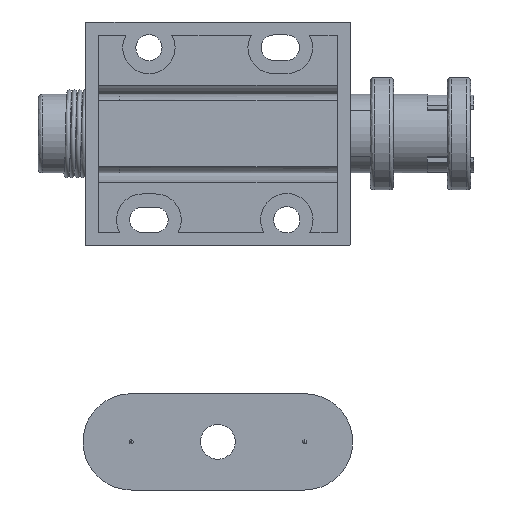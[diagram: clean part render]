
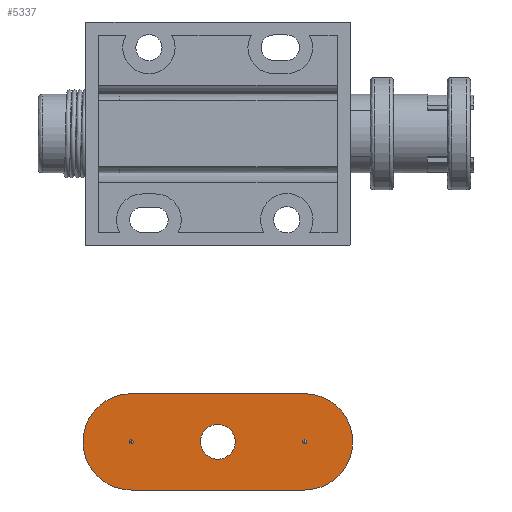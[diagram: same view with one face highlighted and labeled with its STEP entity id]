
A CAD part, front view. The second image highlights one B-rep face of the part: STEP entity #5337.
In plain terms, the highlighted planar face has unit normal (0, -1, 0).
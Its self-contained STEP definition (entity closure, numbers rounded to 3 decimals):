
#32 = EDGE_CURVE ( 'NONE', #4828, #5866, #2025, .T. ) ;
#155 = VECTOR ( 'NONE', #185, 1000. ) ;
#161 = CARTESIAN_POINT ( 'NONE',  ( -11.25, 0., -33.75 ) ) ;
#169 = CARTESIAN_POINT ( 'NONE',  ( 11.25, 0., -40.25 ) ) ;
#185 = DIRECTION ( 'NONE',  ( 1., 0., 0. ) ) ;
#222 = VERTEX_POINT ( 'NONE', #3251 ) ;
#453 = CARTESIAN_POINT ( 'NONE',  ( 0., 0., -37.75 ) ) ;
#512 = EDGE_CURVE ( 'NONE', #4718, #222, #5588, .T. ) ;
#609 = EDGE_CURVE ( 'NONE', #3737, #2587, #4645, .T. ) ;
#654 = EDGE_CURVE ( 'NONE', #2002, #3665, #997, .T. ) ;
#698 = ORIENTED_EDGE ( 'NONE', *, *, #609, .F. ) ;
#850 = AXIS2_PLACEMENT_3D ( 'NONE', #5236, #5227, #5199 ) ;
#894 = CIRCLE ( 'NONE', #4468, 2.25 ) ;
#967 = EDGE_CURVE ( 'NONE', #222, #4828, #2855, .T. ) ;
#997 = CIRCLE ( 'NONE', #4238, 0.25 ) ;
#999 = EDGE_CURVE ( 'NONE', #3665, #2002, #2998, .T. ) ;
#1064 = CIRCLE ( 'NONE', #4383, 0.25 ) ;
#1195 = DIRECTION ( 'NONE',  ( 0., 0., 1. ) ) ;
#1204 = DIRECTION ( 'NONE',  ( 0., -1., 0. ) ) ;
#1211 = CARTESIAN_POINT ( 'NONE',  ( 11.25, 0., -40. ) ) ;
#1344 = CIRCLE ( 'NONE', #4271, 6.25 ) ;
#1357 = VECTOR ( 'NONE', #4248, 1000. ) ;
#1436 = CIRCLE ( 'NONE', #5287, 0.25 ) ;
#1502 = ORIENTED_EDGE ( 'NONE', *, *, #4849, .F. ) ;
#1592 = CARTESIAN_POINT ( 'NONE',  ( 0., 0., -42.25 ) ) ;
#1605 = DIRECTION ( 'NONE',  ( 0., -1., 0. ) ) ;
#1637 = ORIENTED_EDGE ( 'NONE', *, *, #4780, .F. ) ;
#1641 = CARTESIAN_POINT ( 'NONE',  ( -11.25, 0., -40.25 ) ) ;
#1652 = EDGE_LOOP ( 'NONE', ( #1637, #698 ) ) ;
#1672 = CARTESIAN_POINT ( 'NONE',  ( -11.25, 0., -39.75 ) ) ;
#1694 = ORIENTED_EDGE ( 'NONE', *, *, #5016, .F. ) ;
#1723 = FACE_OUTER_BOUND ( 'NONE', #4292, .T. ) ;
#1732 = FACE_BOUND ( 'NONE', #3835, .T. ) ;
#1736 = FACE_BOUND ( 'NONE', #1652, .T. ) ;
#1741 = FACE_BOUND ( 'NONE', #3177, .T. ) ;
#1765 = CARTESIAN_POINT ( 'NONE',  ( -11.25, 0., -40. ) ) ;
#1833 = DIRECTION ( 'NONE',  ( 0., 0., 1. ) ) ;
#1856 = DIRECTION ( 'NONE',  ( 0., 1., 0. ) ) ;
#1904 = PLANE ( 'NONE',  #3880 ) ;
#1996 = CARTESIAN_POINT ( 'NONE',  ( -11.25, 0., -33.75 ) ) ;
#2002 = VERTEX_POINT ( 'NONE', #1672 ) ;
#2025 = LINE ( 'NONE', #4275, #1357 ) ;
#2273 = CARTESIAN_POINT ( 'NONE',  ( -11.25, 0., -40. ) ) ;
#2470 = ORIENTED_EDGE ( 'NONE', *, *, #967, .F. ) ;
#2478 = ORIENTED_EDGE ( 'NONE', *, *, #999, .F. ) ;
#2493 = DIRECTION ( 'NONE',  ( 0., 0., 1. ) ) ;
#2587 = VERTEX_POINT ( 'NONE', #453 ) ;
#2725 = DIRECTION ( 'NONE',  ( 0., -1., 0. ) ) ;
#2855 = CIRCLE ( 'NONE', #4505, 6.25 ) ;
#2998 = CIRCLE ( 'NONE', #850, 0.25 ) ;
#3035 = DIRECTION ( 'NONE',  ( 0., 0., 1. ) ) ;
#3177 = EDGE_LOOP ( 'NONE', ( #5196, #2478 ) ) ;
#3251 = CARTESIAN_POINT ( 'NONE',  ( 11.25, 0., -33.75 ) ) ;
#3665 = VERTEX_POINT ( 'NONE', #1641 ) ;
#3704 = AXIS2_PLACEMENT_3D ( 'NONE', #5812, #1605, #2493 ) ;
#3737 = VERTEX_POINT ( 'NONE', #1592 ) ;
#3739 = CARTESIAN_POINT ( 'NONE',  ( -11.25, 0., -46.25 ) ) ;
#3772 = CARTESIAN_POINT ( 'NONE',  ( 0., 0., -40. ) ) ;
#3835 = EDGE_LOOP ( 'NONE', ( #4558, #1502 ) ) ;
#3862 = EDGE_CURVE ( 'NONE', #5620, #4465, #1436, .T. ) ;
#3880 = AXIS2_PLACEMENT_3D ( 'NONE', #2273, #1856, #1833 ) ;
#4238 = AXIS2_PLACEMENT_3D ( 'NONE', #1765, #5582, #3035 ) ;
#4241 = ORIENTED_EDGE ( 'NONE', *, *, #512, .F. ) ;
#4248 = DIRECTION ( 'NONE',  ( -1., 0., 0. ) ) ;
#4271 = AXIS2_PLACEMENT_3D ( 'NONE', #5711, #5625, #5726 ) ;
#4275 = CARTESIAN_POINT ( 'NONE',  ( -11.25, 0., -46.25 ) ) ;
#4292 = EDGE_LOOP ( 'NONE', ( #4919, #2470, #4241, #1694 ) ) ;
#4383 = AXIS2_PLACEMENT_3D ( 'NONE', #4411, #5567, #5579 ) ;
#4411 = CARTESIAN_POINT ( 'NONE',  ( 11.25, 0., -40. ) ) ;
#4465 = VERTEX_POINT ( 'NONE', #169 ) ;
#4468 = AXIS2_PLACEMENT_3D ( 'NONE', #3772, #2725, #4882 ) ;
#4505 = AXIS2_PLACEMENT_3D ( 'NONE', #5467, #5462, #5460 ) ;
#4558 = ORIENTED_EDGE ( 'NONE', *, *, #3862, .F. ) ;
#4645 = CIRCLE ( 'NONE', #3704, 2.25 ) ;
#4718 = VERTEX_POINT ( 'NONE', #1996 ) ;
#4780 = EDGE_CURVE ( 'NONE', #2587, #3737, #894, .T. ) ;
#4828 = VERTEX_POINT ( 'NONE', #5820 ) ;
#4831 = CARTESIAN_POINT ( 'NONE',  ( 11.25, 0., -39.75 ) ) ;
#4849 = EDGE_CURVE ( 'NONE', #4465, #5620, #1064, .T. ) ;
#4882 = DIRECTION ( 'NONE',  ( 0., 0., 1. ) ) ;
#4919 = ORIENTED_EDGE ( 'NONE', *, *, #32, .F. ) ;
#5016 = EDGE_CURVE ( 'NONE', #5866, #4718, #1344, .T. ) ;
#5196 = ORIENTED_EDGE ( 'NONE', *, *, #654, .F. ) ;
#5199 = DIRECTION ( 'NONE',  ( 0., 0., 1. ) ) ;
#5227 = DIRECTION ( 'NONE',  ( 0., -1., 0. ) ) ;
#5236 = CARTESIAN_POINT ( 'NONE',  ( -11.25, 0., -40. ) ) ;
#5287 = AXIS2_PLACEMENT_3D ( 'NONE', #1211, #1204, #1195 ) ;
#5337 = ADVANCED_FACE ( 'NONE', ( #1732, #1723, #1736, #1741 ), #1904, .F. ) ;
#5460 = DIRECTION ( 'NONE',  ( 0., 0., -1. ) ) ;
#5462 = DIRECTION ( 'NONE',  ( 0., 1., 0. ) ) ;
#5467 = CARTESIAN_POINT ( 'NONE',  ( 11.25, 0., -40. ) ) ;
#5567 = DIRECTION ( 'NONE',  ( 0., -1., 0. ) ) ;
#5579 = DIRECTION ( 'NONE',  ( 0., 0., 1. ) ) ;
#5582 = DIRECTION ( 'NONE',  ( 0., -1., 0. ) ) ;
#5588 = LINE ( 'NONE', #161, #155 ) ;
#5620 = VERTEX_POINT ( 'NONE', #4831 ) ;
#5625 = DIRECTION ( 'NONE',  ( 0., 1., 0. ) ) ;
#5711 = CARTESIAN_POINT ( 'NONE',  ( -11.25, 0., -40. ) ) ;
#5726 = DIRECTION ( 'NONE',  ( 0., 0., -1. ) ) ;
#5812 = CARTESIAN_POINT ( 'NONE',  ( 0., 0., -40. ) ) ;
#5820 = CARTESIAN_POINT ( 'NONE',  ( 11.25, 0., -46.25 ) ) ;
#5866 = VERTEX_POINT ( 'NONE', #3739 ) ;
